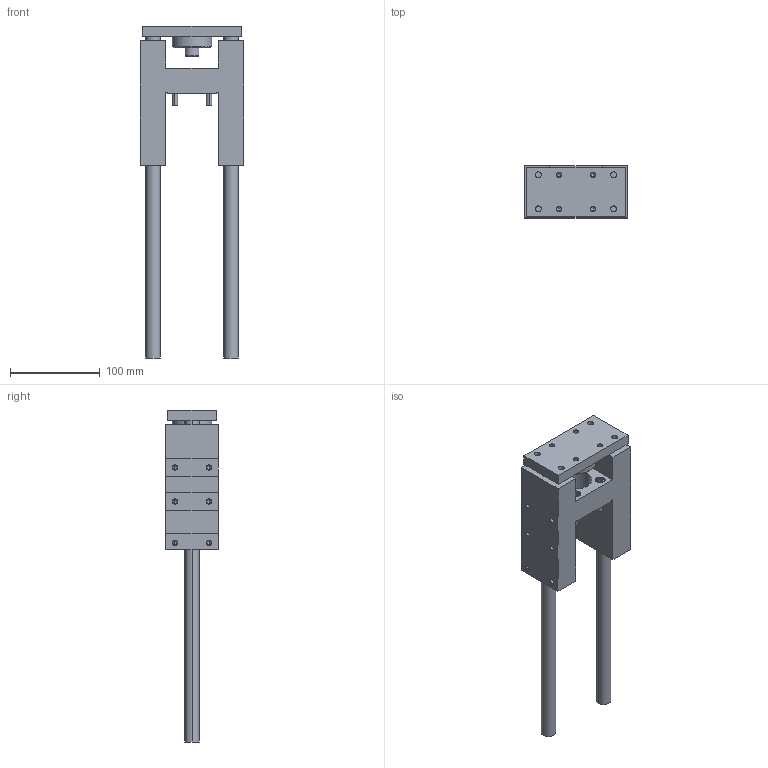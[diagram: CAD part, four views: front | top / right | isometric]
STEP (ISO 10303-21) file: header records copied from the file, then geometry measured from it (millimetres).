
FILE_DESCRIPTION (( 'STEP AP203' ), '1' );
FILE_NAME ('GB40-200.STEP', '2020-04-24T11:21:17', ( '' ), ( '' ), 'SwSTEP 2.0', 'SolidWorks 2019', '' );
FILE_SCHEMA (( 'CONFIG_CONTROL_DESIGN' ));
Length unit declared in the file: millimetre
Products named in the file (1): GB40-200
Bounding box: 115 x 58 x 370 mm (x, y, z)
Volume: 692034.8 mm3; surface area: 142579.1 mm2
Topology: 6 solids, 6 shells, 357 faces, 802 edges, 456 vertices
Faces by surface type: cone 142, plane 113, cylinder 102
Entity records: 10283 total; most frequent: CARTESIAN_POINT 2222, DIRECTION 1796, ORIENTED_EDGE 1532, EDGE_CURVE 766, AXIS2_PLACEMENT_3D 700, VERTEX_POINT 456, EDGE_LOOP 422, LINE 396
